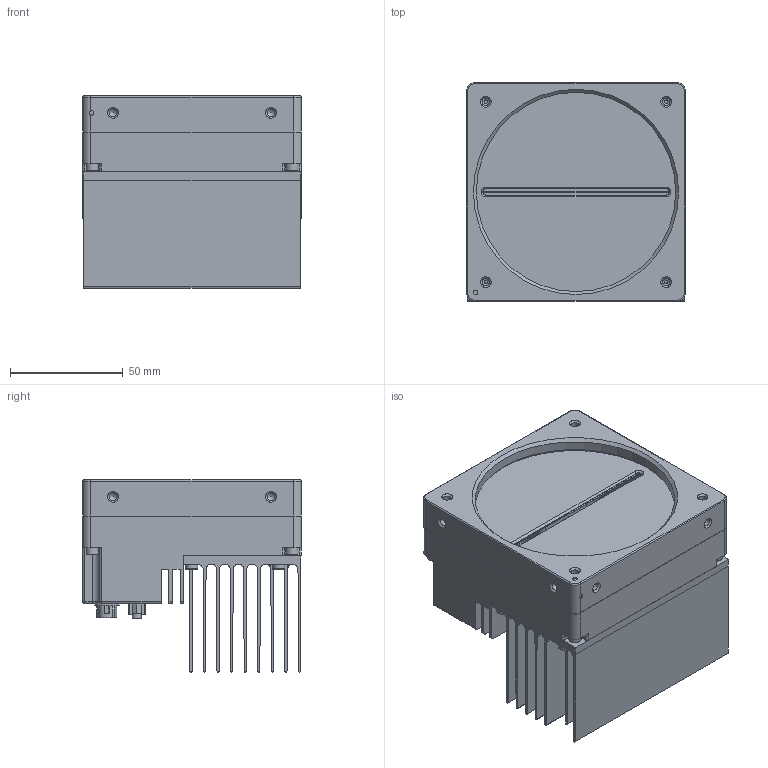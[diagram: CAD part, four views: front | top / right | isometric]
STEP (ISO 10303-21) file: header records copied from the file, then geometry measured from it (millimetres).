
FILE_DESCRIPTION(/* description */ ('16K CUSTOMER DRAWING'),/* implementation_level */ '2;1');
FILE_NAME(/* name */ 'C:\_01_DME_Vault\_01_DME_Vault_Projects\Liberty Color\03-129-20185-02 LIBERTY COLOR 16K CUSTOMER DRAWING\03-129-20185-02 LIBERTY COLOR 16K USER 3D MODEL.stp',/* time_stamp */ '2016-06-28T15:51:11-04:00',/* author */ ('jiang'),/* organization */ (''),/* preprocessor_version */ 'ST-DEVELOPER v15.2',/* originating_system */ 'Autodesk Inventor 2014',/* authorisation */ '');
FILE_SCHEMA (('AUTOMOTIVE_DESIGN { 1 0 10303 214 3 1 1 }'));
Products named in the file (1): 03-129-20185-02 LIBERTY COLOR 16K MODEL FOR STEP FILE
Bounding box: 97 x 97 x 85.2 mm (x, y, z)
Volume: 199079 mm3; surface area: 177926.6 mm2
Topology: 3 solids, 11 shells, 4243 faces, 11422 edges, 7582 vertices
Faces by surface type: plane 2877, bspline 801, cylinder 494, cone 60, torus 6, sphere 5
Full cylindrical faces by diameter (mm): 0.125 x3, 0.53 x6, 1.1 x6, 1.567 x4, 2 x2, 2.013 x4, 2.459 x8, 2.845 x1, 2.92 x1, 3 x12, 3.2 x8, 3.242 x12, 3.4 x4, 4 x4, 5.5 x8, 8 x1, 8.77 x1, 10.9 x1, 88.376 x1, 91 x1
Entity records: 142125 total; most frequent: CARTESIAN_POINT 36418, ORIENTED_EDGE 22442, DIRECTION 17757, EDGE_CURVE 11219, LINE 8531, VECTOR 8531, VERTEX_POINT 7525, EDGE_LOOP 4802
